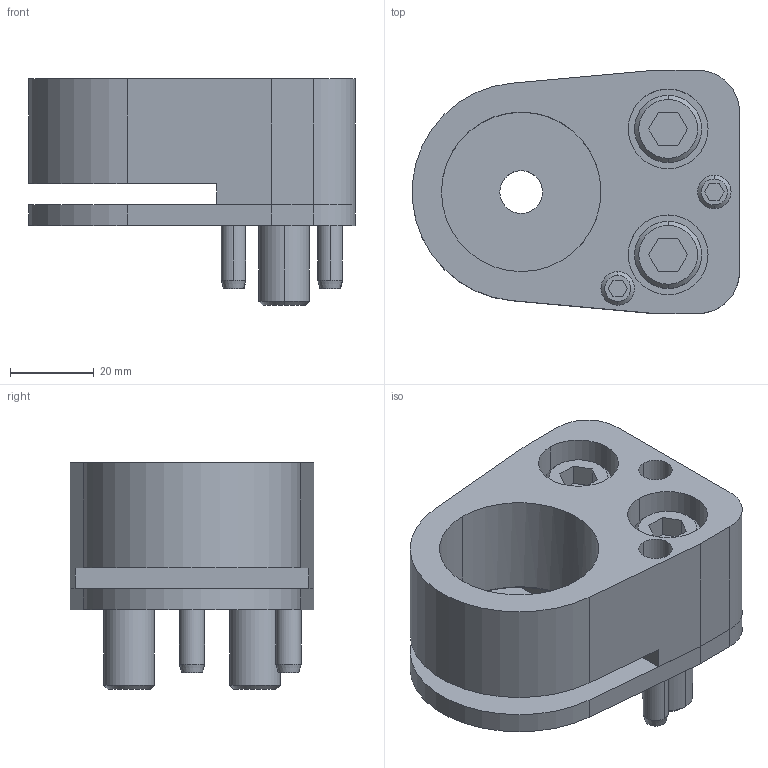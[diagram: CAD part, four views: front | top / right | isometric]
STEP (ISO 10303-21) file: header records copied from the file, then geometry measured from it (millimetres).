
FILE_DESCRIPTION(/* description */ (''),/* implementation_level */ '2;1');
FILE_NAME(/* name */ '3d_cp-fp38_03607_r00.stp',/* time_stamp */ '2011-01-10T14:16:27+09:00',/* author */ ('MISUMI'),/* organization */ (''),/* preprocessor_version */ 'ST-DEVELOPER v11',/* originating_system */ 'UGS - NX 5.0',/* authorisation */ '');
FILE_SCHEMA (('CONFIG_CONTROL_DESIGN'));
Length unit declared in the file: millimetre
Products named in the file (1): 3d_cp-fp38_03607_r00
Bounding box: 77.9 x 58 x 54 mm (x, y, z)
Volume: 96787.4 mm3; surface area: 35045.4 mm2
Topology: 8 solids, 8 shells, 154 faces, 353 edges, 228 vertices
Faces by surface type: plane 68, cylinder 60, cone 26
Entity records: 4523 total; most frequent: DIRECTION 803, CARTESIAN_POINT 793, ORIENTED_EDGE 706, EDGE_CURVE 353, AXIS2_PLACEMENT_3D 302, VERTEX_POINT 228, LINE 199, VECTOR 199
